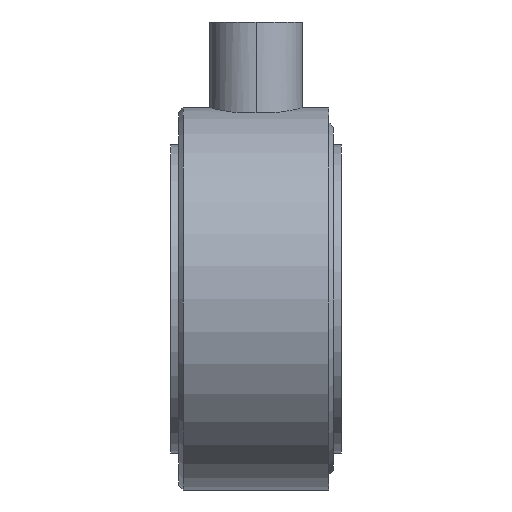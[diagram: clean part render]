
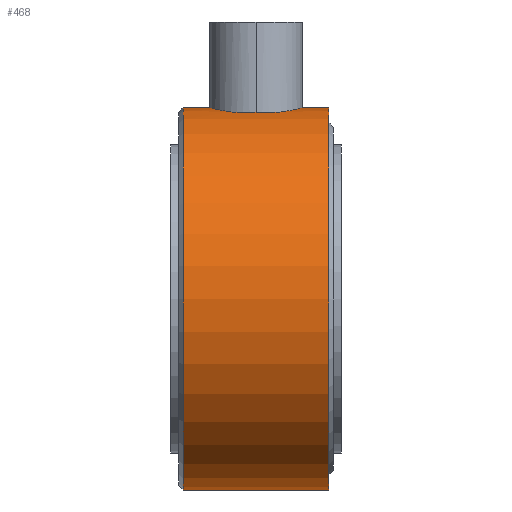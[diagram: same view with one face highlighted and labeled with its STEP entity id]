
A CAD part, left-side view. The second image highlights one B-rep face of the part: STEP entity #468.
In plain terms, the highlighted cylindrical face has radius 17.78 mm (diameter 35.56 mm), a partial arc.
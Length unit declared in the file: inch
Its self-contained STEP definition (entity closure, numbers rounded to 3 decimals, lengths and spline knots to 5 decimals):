
#4 = B_SPLINE_CURVE_WITH_KNOTS ( 'NONE', 3,
 ( #474, #517, #518, #554, #527, #555, #540, #556, #557, #523, #567, #524, #542, #547 ),
 .UNSPECIFIED., .F., .F.,
 ( 4, 2, 2, 2, 2, 2, 4 ),
 ( 0.00678, 0.00732, 0.00787, 0.00841, 0.00896, 0.01005, 0.01114 ),
 .UNSPECIFIED. ) ;
#5 = B_SPLINE_CURVE_WITH_KNOTS ( 'NONE', 3,
 ( #569, #549, #532, #561, #570, #522, #551, #562, #552, #528, #563, #565, #566, #541 ),
 .UNSPECIFIED., .F., .F.,
 ( 4, 2, 2, 2, 2, 2, 4 ),
 ( 0.01596, 0.01705, 0.0176, 0.01814, 0.01923, 0.01978, 0.02033 ),
 .UNSPECIFIED. ) ;
#9 = EDGE_CURVE ( 'NONE', #486, #512, #4, .T. ) ;
#16 = EDGE_CURVE ( 'NONE', #490, #472, #5, .T. ) ;
#32 = EDGE_CURVE ( 'NONE', #499, #485, #281, .T. ) ;
#45 = EDGE_CURVE ( 'NONE', #504, #472, #181, .T. ) ;
#48 = EDGE_CURVE ( 'NONE', #486, #487, #209, .T. ) ;
#53 = AXIS2_PLACEMENT_3D ( 'NONE', #677, #709, #668 ) ;
#83 = EDGE_CURVE ( 'NONE', #504, #499, #210, .T. ) ;
#96 = AXIS2_PLACEMENT_3D ( 'NONE', #685, #699, #680 ) ;
#105 = EDGE_CURVE ( 'NONE', #490, #512, #182, .T. ) ;
#111 = EDGE_CURVE ( 'NONE', #487, #485, #189, .T. ) ;
#124 = AXIS2_PLACEMENT_3D ( 'NONE', #800, #808, #801 ) ;
#170 = FACE_OUTER_BOUND ( 'NONE', #237, .T. ) ;
#171 = CYLINDRICAL_SURFACE ( 'NONE', #124, 0.7 ) ;
#176 = VECTOR ( 'NONE', #669, 39.37008 ) ;
#177 = VECTOR ( 'NONE', #635, 39.37008 ) ;
#181 = LINE ( 'NONE', #647, #177 ) ;
#182 = LINE ( 'NONE', #687, #176 ) ;
#189 = CIRCLE ( 'NONE', #96, 0.7 ) ;
#206 = VECTOR ( 'NONE', #627, 39.37008 ) ;
#209 = LINE ( 'NONE', #625, #206 ) ;
#210 = CIRCLE ( 'NONE', #53, 0.7 ) ;
#237 = EDGE_LOOP ( 'NONE', ( #328, #398, #354, #366, #329, #342, #343, #349 ) ) ;
#281 = LINE ( 'NONE', #603, #300 ) ;
#300 = VECTOR ( 'NONE', #579, 39.37008 ) ;
#328 = ORIENTED_EDGE ( 'NONE', *, *, #45, .F. ) ;
#329 = ORIENTED_EDGE ( 'NONE', *, *, #48, .F. ) ;
#342 = ORIENTED_EDGE ( 'NONE', *, *, #9, .T. ) ;
#343 = ORIENTED_EDGE ( 'NONE', *, *, #105, .F. ) ;
#349 = ORIENTED_EDGE ( 'NONE', *, *, #16, .T. ) ;
#354 = ORIENTED_EDGE ( 'NONE', *, *, #32, .T. ) ;
#366 = ORIENTED_EDGE ( 'NONE', *, *, #111, .F. ) ;
#398 = ORIENTED_EDGE ( 'NONE', *, *, #83, .T. ) ;
#468 = ADVANCED_FACE ( 'NONE', ( #170 ), #171, .T. ) ;
#472 = VERTEX_POINT ( 'NONE', #846 ) ;
#474 = CARTESIAN_POINT ( 'NONE',  ( 0., 0.1125, 0.7 ) ) ;
#485 = VERTEX_POINT ( 'NONE', #855 ) ;
#486 = VERTEX_POINT ( 'NONE', #862 ) ;
#487 = VERTEX_POINT ( 'NONE', #819 ) ;
#490 = VERTEX_POINT ( 'NONE', #847 ) ;
#499 = VERTEX_POINT ( 'NONE', #828 ) ;
#504 = VERTEX_POINT ( 'NONE', #837 ) ;
#512 = VERTEX_POINT ( 'NONE', #817 ) ;
#517 = CARTESIAN_POINT ( 'NONE',  ( -0.00718, 0.1125, 0.7 ) ) ;
#518 = CARTESIAN_POINT ( 'NONE',  ( -0.01443, 0.11296, 0.69989 ) ) ;
#522 = CARTESIAN_POINT ( 'NONE',  ( -0.09485, 0.42376, 0.69357 ) ) ;
#523 = CARTESIAN_POINT ( 'NONE',  ( -0.09517, 0.14091, 0.69361 ) ) ;
#524 = CARTESIAN_POINT ( 'NONE',  ( -0.12757, 0.16921, 0.68836 ) ) ;
#527 = CARTESIAN_POINT ( 'NONE',  ( -0.03584, 0.11617, 0.69912 ) ) ;
#528 = CARTESIAN_POINT ( 'NONE',  ( -0.03578, 0.44885, 0.69912 ) ) ;
#532 = CARTESIAN_POINT ( 'NONE',  ( -0.12751, 0.39585, 0.68837 ) ) ;
#540 = CARTESIAN_POINT ( 'NONE',  ( -0.05649, 0.122, 0.69775 ) ) ;
#541 = CARTESIAN_POINT ( 'NONE',  ( 0., 0.4525, 0.7 ) ) ;
#542 = CARTESIAN_POINT ( 'NONE',  ( -0.13656, 0.18024, 0.68659 ) ) ;
#547 = CARTESIAN_POINT ( 'NONE',  ( -0.14414, 0.19236, 0.685 ) ) ;
#549 = CARTESIAN_POINT ( 'NONE',  ( -0.13651, 0.38483, 0.6866 ) ) ;
#551 = CARTESIAN_POINT ( 'NONE',  ( -0.08885, 0.42761, 0.69437 ) ) ;
#552 = CARTESIAN_POINT ( 'NONE',  ( -0.05656, 0.44345, 0.69785 ) ) ;
#554 = CARTESIAN_POINT ( 'NONE',  ( -0.02879, 0.1148, 0.69944 ) ) ;
#555 = CARTESIAN_POINT ( 'NONE',  ( -0.04969, 0.11977, 0.69827 ) ) ;
#556 = CARTESIAN_POINT ( 'NONE',  ( -0.06984, 0.12734, 0.69654 ) ) ;
#557 = CARTESIAN_POINT ( 'NONE',  ( -0.0764, 0.13047, 0.69585 ) ) ;
#561 = CARTESIAN_POINT ( 'NONE',  ( -0.11192, 0.41066, 0.69101 ) ) ;
#562 = CARTESIAN_POINT ( 'NONE',  ( -0.07015, 0.43801, 0.69659 ) ) ;
#563 = CARTESIAN_POINT ( 'NONE',  ( -0.02875, 0.4502, 0.69945 ) ) ;
#565 = CARTESIAN_POINT ( 'NONE',  ( -0.01451, 0.45203, 0.69989 ) ) ;
#566 = CARTESIAN_POINT ( 'NONE',  ( -0.00723, 0.4525, 0.7 ) ) ;
#567 = CARTESIAN_POINT ( 'NONE',  ( -0.10666, 0.14934, 0.69191 ) ) ;
#569 = CARTESIAN_POINT ( 'NONE',  ( -0.14414, 0.37264, 0.685 ) ) ;
#570 = CARTESIAN_POINT ( 'NONE',  ( -0.10636, 0.41531, 0.6919 ) ) ;
#579 = DIRECTION ( 'NONE',  ( 0., -1., 0. ) ) ;
#603 = CARTESIAN_POINT ( 'NONE',  ( 0., 0.565, -0.7 ) ) ;
#625 = CARTESIAN_POINT ( 'NONE',  ( 0., 0.565, 0.7 ) ) ;
#627 = DIRECTION ( 'NONE',  ( 0., -1., 0. ) ) ;
#635 = DIRECTION ( 'NONE',  ( 0., -1., 0. ) ) ;
#647 = CARTESIAN_POINT ( 'NONE',  ( 0., 0.565, 0.7 ) ) ;
#668 = DIRECTION ( 'NONE',  ( 0., 0., 1. ) ) ;
#669 = DIRECTION ( 'NONE',  ( 0., -1., 0. ) ) ;
#677 = CARTESIAN_POINT ( 'NONE',  ( 0., 0.55, 0. ) ) ;
#680 = DIRECTION ( 'NONE',  ( 0., 0., -1. ) ) ;
#685 = CARTESIAN_POINT ( 'NONE',  ( 0., 0.015, 0. ) ) ;
#687 = CARTESIAN_POINT ( 'NONE',  ( -0.14414, 0.565, 0.685 ) ) ;
#699 = DIRECTION ( 'NONE',  ( 0., -1., 0. ) ) ;
#709 = DIRECTION ( 'NONE',  ( 0., -1., 0. ) ) ;
#800 = CARTESIAN_POINT ( 'NONE',  ( 0., 0.565, 0. ) ) ;
#801 = DIRECTION ( 'NONE',  ( 0., 0., -1. ) ) ;
#808 = DIRECTION ( 'NONE',  ( 0., -1., 0. ) ) ;
#817 = CARTESIAN_POINT ( 'NONE',  ( -0.14414, 0.19236, 0.685 ) ) ;
#819 = CARTESIAN_POINT ( 'NONE',  ( 0., 0.015, 0.7 ) ) ;
#828 = CARTESIAN_POINT ( 'NONE',  ( 0., 0.55, -0.7 ) ) ;
#837 = CARTESIAN_POINT ( 'NONE',  ( 0., 0.55, 0.7 ) ) ;
#846 = CARTESIAN_POINT ( 'NONE',  ( 0., 0.4525, 0.7 ) ) ;
#847 = CARTESIAN_POINT ( 'NONE',  ( -0.14414, 0.37264, 0.685 ) ) ;
#855 = CARTESIAN_POINT ( 'NONE',  ( 0., 0.015, -0.7 ) ) ;
#862 = CARTESIAN_POINT ( 'NONE',  ( 0., 0.1125, 0.7 ) ) ;
